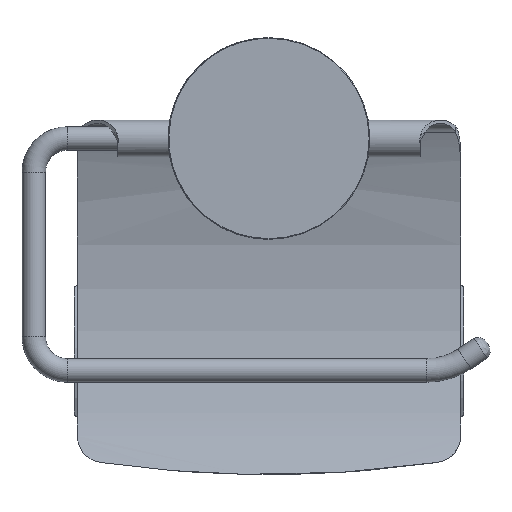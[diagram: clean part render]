
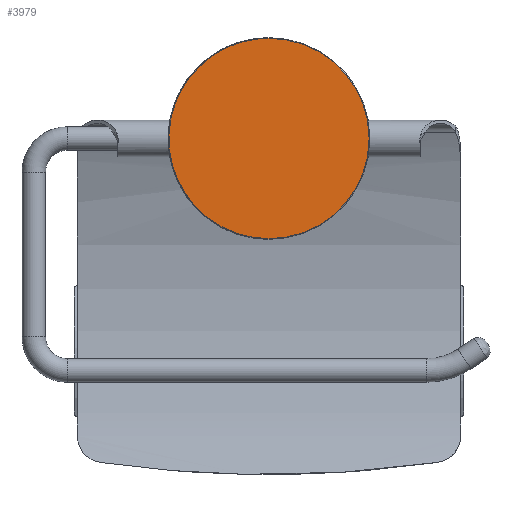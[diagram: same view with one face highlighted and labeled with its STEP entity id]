
A CAD part, front view. The second image highlights one B-rep face of the part: STEP entity #3979.
In plain terms, the highlighted planar face has unit normal (0, -1, 0).
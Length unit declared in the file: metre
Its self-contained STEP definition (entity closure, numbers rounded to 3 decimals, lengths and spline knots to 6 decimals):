
#1066=EDGE_CURVE('',#1067,#1069,#1071,.F.);
#1067=VERTEX_POINT('',#1068);
#1068=CARTESIAN_POINT('',(0.0,-0.014,-0.0298));
#1069=VERTEX_POINT('',#1070);
#1070=CARTESIAN_POINT('',(0.0,-0.014,0.0298));
#1071=CIRCLE('',#1072,0.0298);
#1072=AXIS2_PLACEMENT_3D('',#1073,#1074,#1075);
#1073=CARTESIAN_POINT('',(0.0,-0.014,0.0));
#1074=DIRECTION('',(0.0,1.0,0.0));
#1075=DIRECTION('',(0.0,0.0,1.0));
#3979=ADVANCED_FACE('',(#3985),#3980,.F.);
#3980=PLANE('',#3981);
#3981=AXIS2_PLACEMENT_3D('',#3982,#3983,#3984);
#3982=CARTESIAN_POINT('',(0.0,-0.014,0.03));
#3983=DIRECTION('',(0.0,1.0,0.0));
#3984=DIRECTION('',(0.0,0.0,1.0));
#3985=FACE_OUTER_BOUND('',#3986,.T.);
#3986=EDGE_LOOP('',(#3987,#3995));
#3987=ORIENTED_EDGE('',*,*,#3989,.T.);
#3988=CARTESIAN_POINT('',(0.0,-0.014,-0.0298));
#3989=EDGE_CURVE('',#1069,#1067,#3990,.F.);
#3990=(B_SPLINE_CURVE(3,(#3988,#3991,#3992,#3993),.UNSPECIFIED.,.F.,.U.)B_SPLINE_CURVE_WITH_KNOTS(
  (4,4),(0.0,1.0),.UNSPECIFIED.)BOUNDED_CURVE()CURVE()GEOMETRIC_REPRESENTATION_ITEM(
  )RATIONAL_B_SPLINE_CURVE((1.0,0.333,0.333,1.0)
  )REPRESENTATION_ITEM(''));
#3991=CARTESIAN_POINT('',(-0.0596,-0.014,-0.0298));
#3992=CARTESIAN_POINT('',(-0.0596,-0.014,0.0298));
#3993=CARTESIAN_POINT('',(0.0,-0.014,0.0298));
#3995=ORIENTED_EDGE('',*,*,#1066,.T.);
